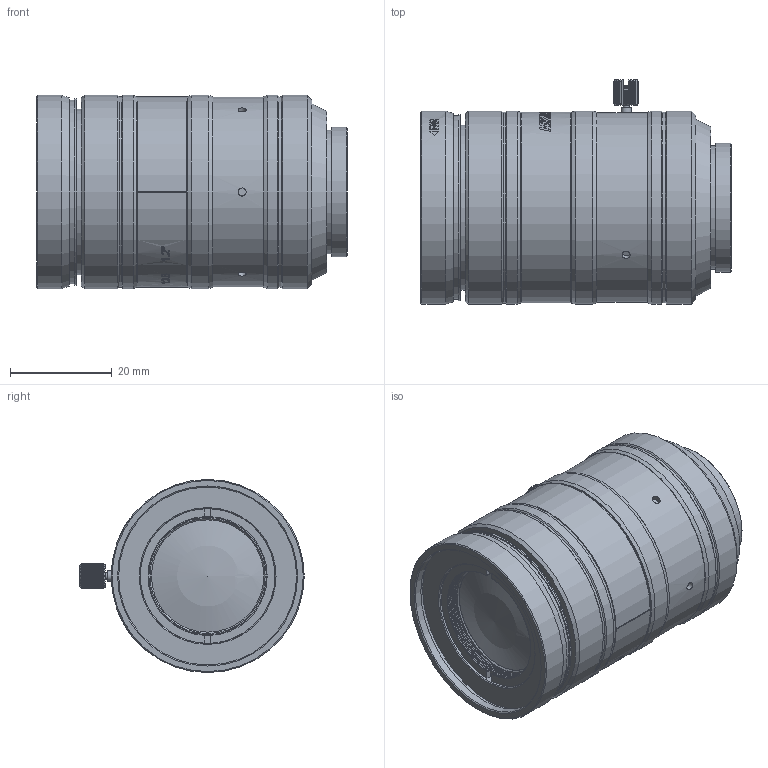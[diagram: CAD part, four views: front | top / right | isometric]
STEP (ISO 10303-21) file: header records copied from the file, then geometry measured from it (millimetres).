
FILE_DESCRIPTION(/* description */ ('CAx-IF Rec.Pracs.---Representation and Presentation of Product Manufacturing Information (PMI)---4.0---2014-10-13','CAx-IF Rec.Pracs.---3D Tessellated Geometry---0.4---2014-09-14','2;1'),/* implementation_level */ '2;1');
FILE_NAME(/* name */ 'T-60042-C',/* time_stamp */ '2026-07-01T15:38:55+08:00',/* author */ (''),/* organization */ (''),/* preprocessor_version */ 'ST-DEVELOPER v16.7',/* originating_system */ $,/* authorisation */ $);
FILE_SCHEMA (('AP242_MANAGED_MODEL_BASED_3D_ENGINEERING_MIM_LF { 1 0 10303 442 20130219 1 4 }'));
Length unit declared in the file: millimetre
Products named in the file (1): T-60042-C
Bounding box: 61.04 x 44.15 x 38 mm (x, y, z)
Volume: 58955.9 mm3; surface area: 16629.5 mm2
Topology: 6 solids, 6 shells, 714 faces, 1909 edges, 1273 vertices
Faces by surface type: plane 375, bspline 154, cylinder 106, cone 77, sphere 2
Full cylindrical faces by diameter (mm): 1.2 x1, 1.6 x3, 2 x1, 20.001 x1, 20.474 x1, 20.501 x1, 22.081 x1, 22.907 x1, 23.1 x1, 24.3 x1, 25.4 x1, 26.5 x1, 32.495 x1, 35 x1, 35.7 x1, 36.098 x1, 36.598 x1, 37.295 x1, 37.3 x1, 37.505 x1, 37.535 x1, 37.998 x1, 38 x5
Entity records: 28125 total; most frequent: CARTESIAN_POINT 11738, ORIENTED_EDGE 3616, DIRECTION 2845, EDGE_CURVE 1808, VERTEX_POINT 1244, AXIS2_PLACEMENT_3D 1070, EDGE_LOOP 854, FACE_BOUND 854
